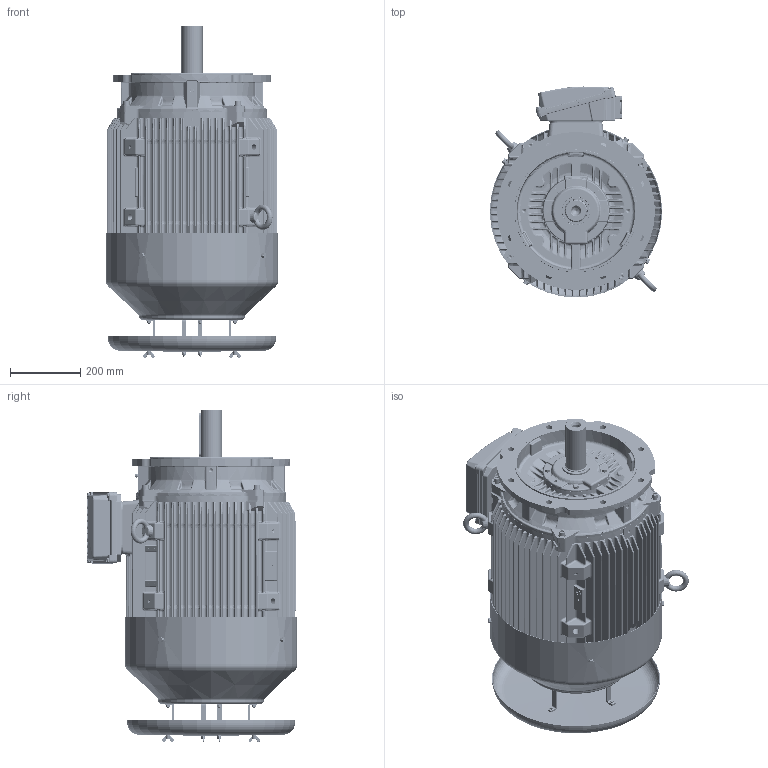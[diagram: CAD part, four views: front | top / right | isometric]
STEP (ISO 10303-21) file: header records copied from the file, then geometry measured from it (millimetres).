
FILE_DESCRIPTION (( 'STEP AP203' ), '1' );
FILE_NAME ('0222500567_RevB.STEP', '2019-05-15T10:37:51', ( '' ), ( '' ), 'SwSTEP 2.0', 'SolidWorks 2015', '' );
FILE_SCHEMA (( 'CONFIG_CONTROL_DESIGN' ));
Length unit declared in the file: inch
Products named in the file (1): 0222500567_RevB
Bounding box: 491 x 599.9 x 945.1 mm (x, y, z)
Volume: 24304742.2 mm3; surface area: 5503795.4 mm2
Topology: 80 solids, 80 shells, 11499 faces, 28434 edges, 16971 vertices
Faces by surface type: cylinder 3500, bspline 3185, plane 2210, torus 1201, cone 1197, sphere 206
Entity records: 456106 total; most frequent: CARTESIAN_POINT 207215, ORIENTED_EDGE 56244, DIRECTION 47924, EDGE_CURVE 28122, AXIS2_PLACEMENT_3D 19890, VERTEX_POINT 16945, EDGE_LOOP 12479, CIRCLE 11575
